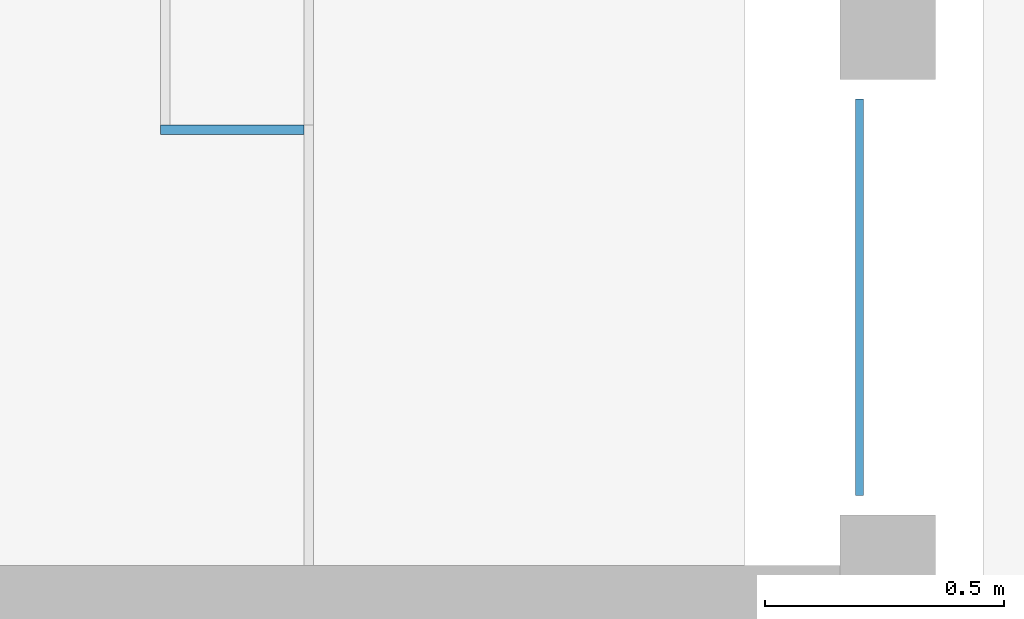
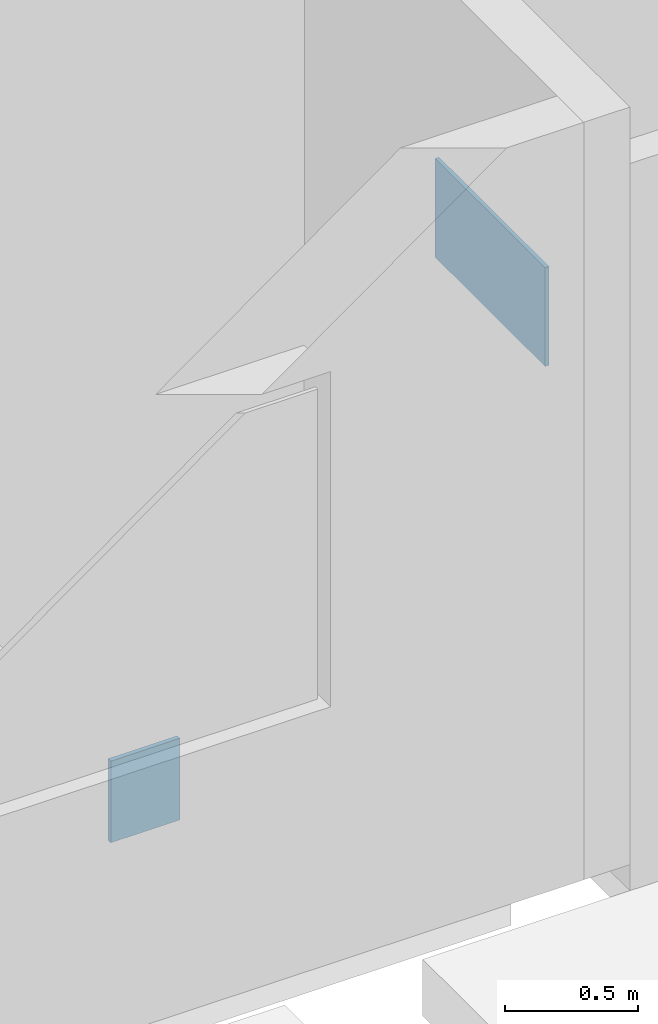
# One storey, part 13 of 30: 1 plate, 1 slab.
"""IFC4X3_ADD2 building model written with IfcOpenShell, lengths in millimetres."""

from ifc_helpers import new_model, si_unit, direction, frame, origin_with_axes, origin_2d_with_axis, place, context, subcontext, project, spatial, polyline, rectangle, outline, extrude, source, transform, mapped, material, type_object, element, save


model = new_model("IFC4X3_ADD2")

# Units and contexts
model_context = context("Model", 3, precision=1e-05, world=origin_with_axes(), true_north=direction((0.0, 1.0)))
body_context = subcontext(model_context, "Body", "Model", "MODEL_VIEW")
ifc_project = project(units=[si_unit("LENGTHUNIT", "METRE", prefix="MILLI"), si_unit("AREAUNIT", "SQUARE_METRE"), si_unit("VOLUMEUNIT", "CUBIC_METRE"), si_unit("PLANEANGLEUNIT", "RADIAN"), si_unit("TIMEUNIT", "SECOND"), si_unit("MASSUNIT", "GRAM")], contexts=[model_context])

# Site, building, storey
site_placement = place(None, origin_with_axes())
site = spatial("IfcSite", under=ifc_project, at=site_placement, Name="Site", CompositionType="ELEMENT")
building_placement = place(site_placement, origin_with_axes())
building = spatial("IfcBuilding", under=site, at=building_placement, Name="IFC Building Story")
storey_placement = place(building_placement, origin_with_axes())
storey = spatial("IfcBuildingStorey", under=building, at=storey_placement, Name="000", Elevation=0.0)

# Plate
ifc_material_1 = material(Name="BB_Glas")
shared_shape = source(origin_with_axes(), body_context, "Body", "SweptSolid", [
    extrude(rectangle(XDim=828.000000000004, YDim=454.000000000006, at=origin_2d_with_axis()), frame((0.0, 0.0, -17.0), z_axis=(0.0, 0.0, 1.0), x_axis=(1.0, 0.0, 0.0)), (0.0, 0.0, 1.0), 17.0),
])
plate_placement = place(storey_placement, frame((-7168.0, 36760.0, 2284.0), z_axis=(-1.0, 0.0, 0.0), x_axis=(0.0, 1.0, 0.0)))
element("IfcPlate", 1, at=plate_placement, inside=storey, material=ifc_material_1, Name="BB_10.10_Binnenbeglazing, rechthoekig_GMO:XX_Geen", ObjectType="BB_10.10_Binnenbeglazing, rechthoekig_GMO:XX_Geen", PredefinedType="USERDEFINED", context=body_context, shape_type="MappedRepresentation", body=[
    mapped(shared_shape, transform((0.0, 0.0, 0.0))),
])

# Slab
ifc_material_2 = material(Name="BB_09.08.21#03_Vloer_Verhoogd_Bestaande te verhogen")
slab_type = type_object("IfcSlabType", Name="BB_09.08.21#03_Vloer_Verhoogd_Bestaande te verhogen 20", PredefinedType="FLOOR", material=ifc_material_2)
slab_placement = place(storey_placement, frame((-8620.000000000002, 37100.0, -80.0), z_axis=(0.0, -1.0, 0.0), x_axis=(1.0, 0.0, 0.0)))
element("IfcSlab", 2, at=slab_placement, inside=storey, type_object=slab_type, Name="Basic Wall:BB_09.08.XX_Rand verhoogde vloer, 20 mm", ObjectType="Basic Wall:BB_09.08.XX_Rand verhoogde vloer, 20 mm", PredefinedType="FLOOR", context=body_context, shape_type="SweptSolid", body=[
    extrude(outline(polyline([(-150.0000000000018, 187.5), (150.0, 187.5), (150.0, -187.5), (-150.0000000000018, -187.5), (-150.0000000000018, 187.5)])), frame((150.0000000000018, 187.5, -20.0), z_axis=(0.0, 0.0, 1.0), x_axis=(1.0, 0.0, 0.0)), (0.0, 0.0, 1.0), 20.00000000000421),
])

save(model, "model.ifc")
